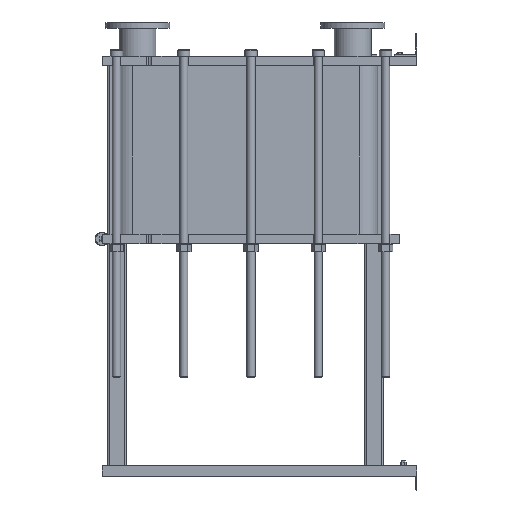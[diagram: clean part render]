
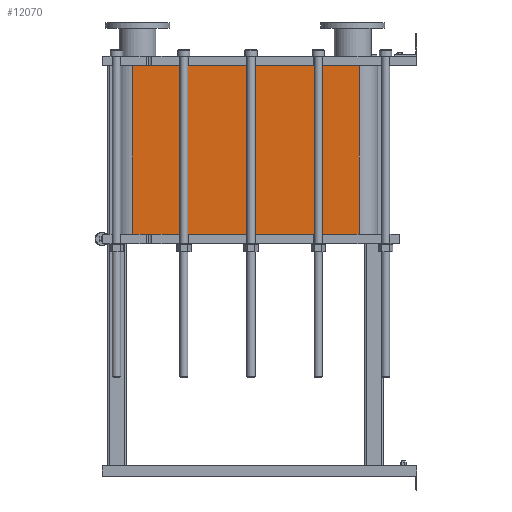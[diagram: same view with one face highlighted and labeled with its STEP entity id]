
A CAD part, left-side view. The second image highlights one B-rep face of the part: STEP entity #12070.
In plain terms, the highlighted planar face has unit normal (-1, 0, 0).
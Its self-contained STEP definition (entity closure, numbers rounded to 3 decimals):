
#1064=LINE('',#21140,#2164);
#1065=LINE('',#21144,#2165);
#1066=LINE('',#21146,#2166);
#1067=LINE('',#21147,#2167);
#2164=VECTOR('',#15790,10.);
#2165=VECTOR('',#15795,10.);
#2166=VECTOR('',#15796,10.);
#2167=VECTOR('',#15797,10.);
#3304=FACE_OUTER_BOUND('',#4091,.T.);
#4091=EDGE_LOOP('',(#9793,#9794,#9795,#9796));
#5677=VERTEX_POINT('',#21137);
#5678=VERTEX_POINT('',#21139);
#5679=VERTEX_POINT('',#21143);
#5680=VERTEX_POINT('',#21145);
#7118=EDGE_CURVE('',#5678,#5677,#1064,.T.);
#7120=EDGE_CURVE('',#5677,#5679,#1065,.T.);
#7121=EDGE_CURVE('',#5680,#5679,#1066,.T.);
#7122=EDGE_CURVE('',#5680,#5678,#1067,.T.);
#9793=ORIENTED_EDGE('',*,*,#7120,.T.);
#9794=ORIENTED_EDGE('',*,*,#7121,.F.);
#9795=ORIENTED_EDGE('',*,*,#7122,.T.);
#9796=ORIENTED_EDGE('',*,*,#7118,.T.);
#11441=PLANE('',#13191);
#12070=ADVANCED_FACE('',(#3304),#11441,.T.);
#13191=AXIS2_PLACEMENT_3D('',#21142,#15793,#15794);
#15790=DIRECTION('',(0.,0.,-1.));
#15793=DIRECTION('center_axis',(-1.,0.,0.));
#15794=DIRECTION('ref_axis',(0.,1.,0.));
#15795=DIRECTION('',(0.,-1.,0.));
#15796=DIRECTION('',(0.,0.,-1.));
#15797=DIRECTION('',(0.,1.,0.));
#21137=CARTESIAN_POINT('',(-248.152,1243.818,-738.3));
#21139=CARTESIAN_POINT('',(-248.152,1243.818,0.));
#21140=CARTESIAN_POINT('',(-248.152,1243.818,0.));
#21142=CARTESIAN_POINT('Origin',(-248.152,251.818,0.));
#21143=CARTESIAN_POINT('',(-248.152,251.818,-738.3));
#21144=CARTESIAN_POINT('',(-248.152,499.818,-738.3));
#21145=CARTESIAN_POINT('',(-248.152,251.818,0.));
#21146=CARTESIAN_POINT('',(-248.152,251.818,0.));
#21147=CARTESIAN_POINT('',(-248.152,251.818,0.));
